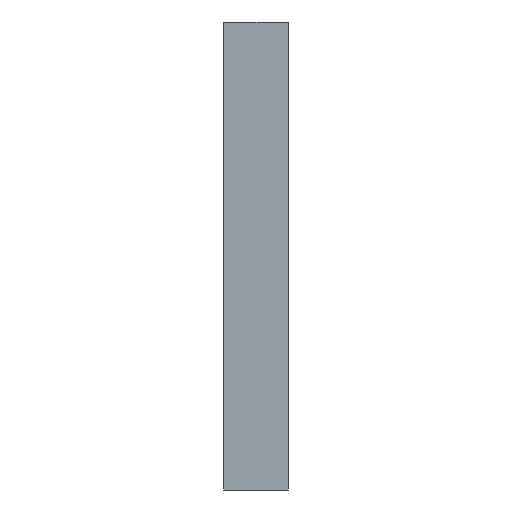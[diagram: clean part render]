
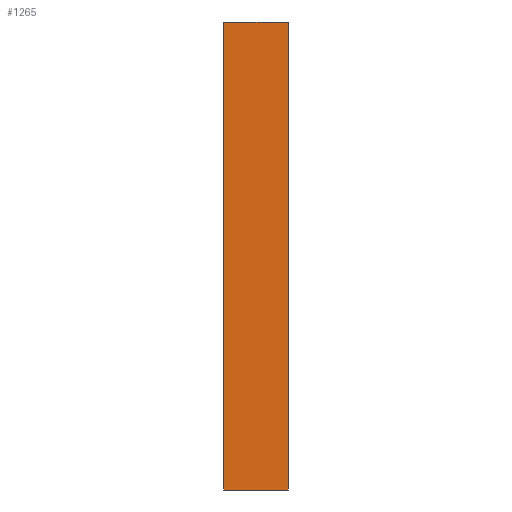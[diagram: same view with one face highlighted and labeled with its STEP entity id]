
A CAD part, left-side view. The second image highlights one B-rep face of the part: STEP entity #1265.
In plain terms, the highlighted planar face has unit normal (-1, 0, 0).
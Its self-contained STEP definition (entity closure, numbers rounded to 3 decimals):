
#17 = DIRECTION ( 'NONE',  ( 0., -1., 0. ) ) ;
#49 = VERTEX_POINT ( 'NONE', #647 ) ;
#134 = FACE_OUTER_BOUND ( 'NONE', #1291, .T. ) ;
#137 = CARTESIAN_POINT ( 'NONE',  ( -198., 27., -98. ) ) ;
#187 = LINE ( 'NONE', #1702, #472 ) ;
#320 = LINE ( 'NONE', #137, #554 ) ;
#341 = CARTESIAN_POINT ( 'NONE',  ( -198., 27., 98. ) ) ;
#472 = VECTOR ( 'NONE', #1453, 1000. ) ;
#534 = VECTOR ( 'NONE', #1692, 1000. ) ;
#554 = VECTOR ( 'NONE', #17, 1000. ) ;
#643 = ORIENTED_EDGE ( 'NONE', *, *, #1611, .T. ) ;
#647 = CARTESIAN_POINT ( 'NONE',  ( -198., 27., 98. ) ) ;
#684 = CARTESIAN_POINT ( 'NONE',  ( -198., 0., 98. ) ) ;
#685 = LINE ( 'NONE', #341, #534 ) ;
#698 = ORIENTED_EDGE ( 'NONE', *, *, #1337, .F. ) ;
#722 = ORIENTED_EDGE ( 'NONE', *, *, #1351, .F. ) ;
#763 = ORIENTED_EDGE ( 'NONE', *, *, #1279, .T. ) ;
#822 = CARTESIAN_POINT ( 'NONE',  ( -198., 0., -98. ) ) ;
#960 = VERTEX_POINT ( 'NONE', #822 ) ;
#1035 = CARTESIAN_POINT ( 'NONE',  ( -198., 27., -98. ) ) ;
#1123 = VECTOR ( 'NONE', #1505, 1000. ) ;
#1265 = ADVANCED_FACE ( 'NONE', ( #134 ), #1670, .F. ) ;
#1279 = EDGE_CURVE ( 'NONE', #1465, #960, #320, .T. ) ;
#1291 = EDGE_LOOP ( 'NONE', ( #643, #722, #698, #763 ) ) ;
#1337 = EDGE_CURVE ( 'NONE', #1465, #49, #685, .T. ) ;
#1351 = EDGE_CURVE ( 'NONE', #49, #1840, #187, .T. ) ;
#1453 = DIRECTION ( 'NONE',  ( 0., -1., 0. ) ) ;
#1465 = VERTEX_POINT ( 'NONE', #1035 ) ;
#1505 = DIRECTION ( 'NONE',  ( 0., 0., 1. ) ) ;
#1560 = CARTESIAN_POINT ( 'NONE',  ( -198., 27., 98. ) ) ;
#1611 = EDGE_CURVE ( 'NONE', #960, #1840, #1932, .T. ) ;
#1670 = PLANE ( 'NONE',  #1788 ) ;
#1692 = DIRECTION ( 'NONE',  ( 0., 0., 1. ) ) ;
#1698 = DIRECTION ( 'NONE',  ( 1., 0., 0. ) ) ;
#1702 = CARTESIAN_POINT ( 'NONE',  ( -198., 27., 98. ) ) ;
#1708 = DIRECTION ( 'NONE',  ( 0., 0., -1. ) ) ;
#1719 = CARTESIAN_POINT ( 'NONE',  ( -198., 0., 98. ) ) ;
#1788 = AXIS2_PLACEMENT_3D ( 'NONE', #1560, #1698, #1708 ) ;
#1840 = VERTEX_POINT ( 'NONE', #684 ) ;
#1932 = LINE ( 'NONE', #1719, #1123 ) ;
